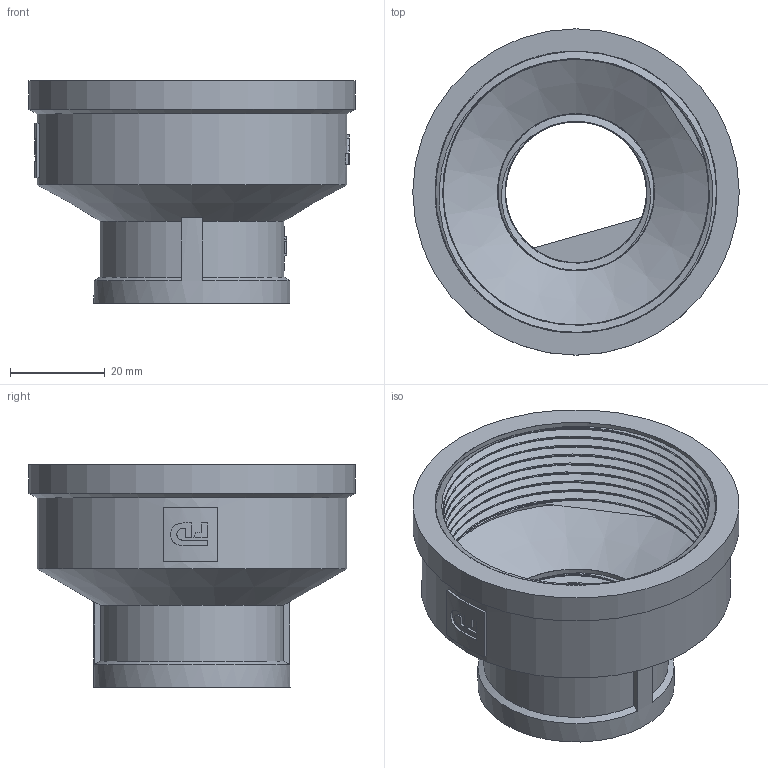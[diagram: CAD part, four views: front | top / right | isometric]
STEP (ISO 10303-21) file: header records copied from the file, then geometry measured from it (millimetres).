
FILE_DESCRIPTION(/* description */ (''),/* implementation_level */ '2;1');
FILE_NAME(/* name */ 'C:\Users\Doom\Desktop\Фадотех\Резьба\M20 17.03.2020\M20 17.03.2020.stp',/* time_stamp */ '2022-01-06T00:05:54+02:00',/* author */ ('Doom'),/* organization */ (''),/* preprocessor_version */ 'ST-DEVELOPER v18',/* originating_system */ 'Autodesk Inventor 2020',/* authorisation */ '');
FILE_SCHEMA (('AUTOMOTIVE_DESIGN { 1 0 10303 214 3 1 1 }'));
Length unit declared in the file: millimetre
Products named in the file (1): M20 17.03.2020
Bounding box: 69 x 69 x 47 mm (x, y, z)
Volume: 45529.1 mm3; surface area: 37137 mm2
Topology: 3 solids, 3 shells, 135 faces, 365 edges, 241 vertices
Faces by surface type: plane 60, cylinder 42, bspline 28, cone 5
Full cylindrical faces by diameter (mm): 29.776 x9, 33.2 x2, 41.5 x1, 56.176 x11, 59.6 x2, 65.5 x1, 69 x1
Entity records: 14482 total; most frequent: CARTESIAN_POINT 11274, ORIENTED_EDGE 714, DIRECTION 570, EDGE_CURVE 357, VERTEX_POINT 237, AXIS2_PLACEMENT_3D 217, EDGE_LOOP 150, LINE 136
